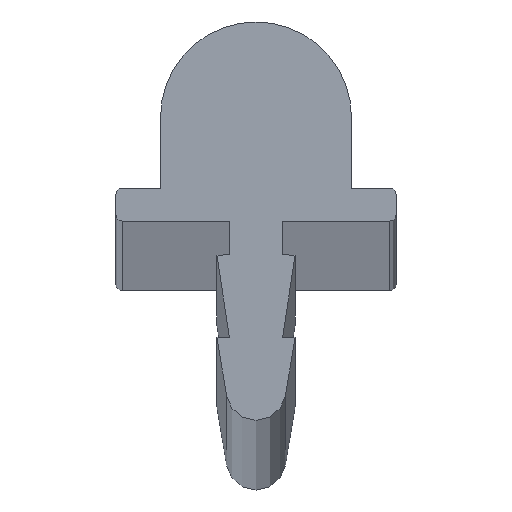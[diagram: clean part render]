
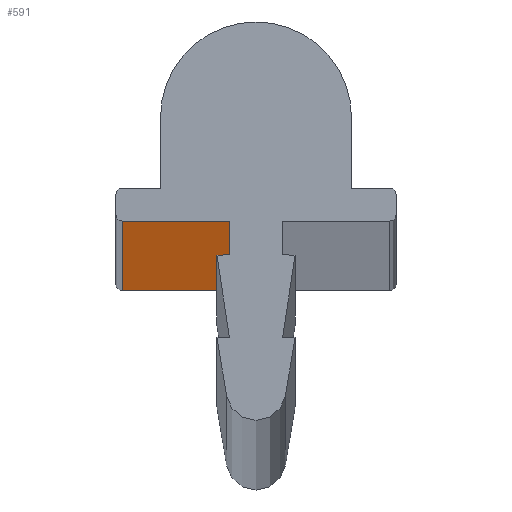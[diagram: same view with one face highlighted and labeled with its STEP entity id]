
A CAD part, top view. The second image highlights one B-rep face of the part: STEP entity #591.
In plain terms, the highlighted planar face has unit normal (0, -1, 0).
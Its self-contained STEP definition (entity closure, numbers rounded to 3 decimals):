
#39 = CARTESIAN_POINT ( 'NONE',  ( -4.225, 0., 600. ) ) ;
#43 = CARTESIAN_POINT ( 'NONE',  ( -4.225, 0., -600. ) ) ;
#108 = PLANE ( 'NONE',  #603 ) ;
#115 = DIRECTION ( 'NONE',  ( 0., 0., -1. ) ) ;
#118 = EDGE_CURVE ( 'NONE', #141, #370, #451, .T. ) ;
#141 = VERTEX_POINT ( 'NONE', #846 ) ;
#161 = DIRECTION ( 'NONE',  ( 0., 0., -1. ) ) ;
#179 = CARTESIAN_POINT ( 'NONE',  ( -0.8, 0., 600. ) ) ;
#195 = VECTOR ( 'NONE', #115, 1000. ) ;
#233 = ORIENTED_EDGE ( 'NONE', *, *, #773, .F. ) ;
#302 = CARTESIAN_POINT ( 'NONE',  ( -4.025, 0., 600. ) ) ;
#313 = DIRECTION ( 'NONE',  ( 1., 0., 0. ) ) ;
#338 = VECTOR ( 'NONE', #313, 1000. ) ;
#370 = VERTEX_POINT ( 'NONE', #470 ) ;
#375 = CARTESIAN_POINT ( 'NONE',  ( -4.025, 0., 600. ) ) ;
#430 = ORIENTED_EDGE ( 'NONE', *, *, #795, .T. ) ;
#451 = LINE ( 'NONE', #43, #338 ) ;
#470 = CARTESIAN_POINT ( 'NONE',  ( -0.8, 0., -600. ) ) ;
#480 = ORIENTED_EDGE ( 'NONE', *, *, #605, .F. ) ;
#484 = VERTEX_POINT ( 'NONE', #179 ) ;
#496 = VERTEX_POINT ( 'NONE', #302 ) ;
#512 = DIRECTION ( 'NONE',  ( 0., 1., 0. ) ) ;
#513 = LINE ( 'NONE', #375, #531 ) ;
#524 = DIRECTION ( 'NONE',  ( 1., 0., 0. ) ) ;
#531 = VECTOR ( 'NONE', #161, 1000. ) ;
#586 = EDGE_LOOP ( 'NONE', ( #233, #430, #876, #480 ) ) ;
#591 = ADVANCED_FACE ( 'NONE', ( #714 ), #108, .F. ) ;
#595 = DIRECTION ( 'NONE',  ( 0., 0., 1. ) ) ;
#603 = AXIS2_PLACEMENT_3D ( 'NONE', #39, #512, #595 ) ;
#605 = EDGE_CURVE ( 'NONE', #484, #370, #792, .T. ) ;
#614 = VECTOR ( 'NONE', #524, 1000. ) ;
#650 = CARTESIAN_POINT ( 'NONE',  ( -0.8, 0., 606.444 ) ) ;
#714 = FACE_OUTER_BOUND ( 'NONE', #586, .T. ) ;
#769 = CARTESIAN_POINT ( 'NONE',  ( -4.225, 0., 600. ) ) ;
#773 = EDGE_CURVE ( 'NONE', #496, #484, #838, .T. ) ;
#792 = LINE ( 'NONE', #650, #195 ) ;
#795 = EDGE_CURVE ( 'NONE', #496, #141, #513, .T. ) ;
#838 = LINE ( 'NONE', #769, #614 ) ;
#846 = CARTESIAN_POINT ( 'NONE',  ( -4.025, 0., -600. ) ) ;
#876 = ORIENTED_EDGE ( 'NONE', *, *, #118, .T. ) ;
